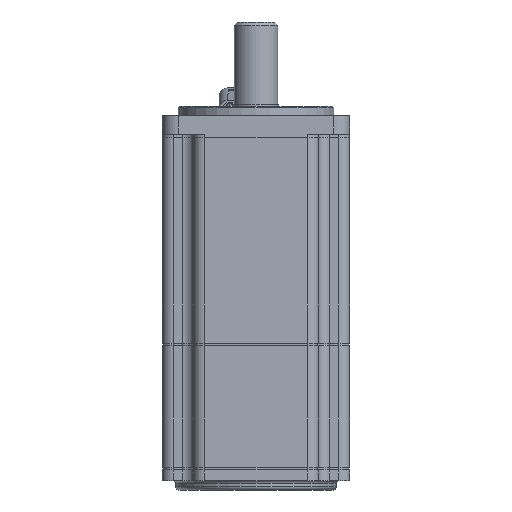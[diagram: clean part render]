
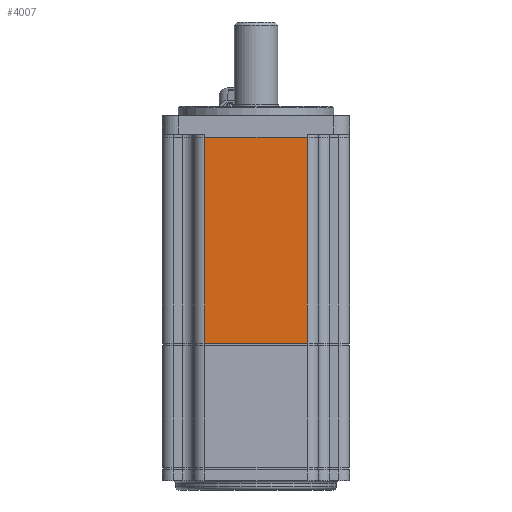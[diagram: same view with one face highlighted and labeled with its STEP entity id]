
A CAD part, front view. The second image highlights one B-rep face of the part: STEP entity #4007.
In plain terms, the highlighted planar face has unit normal (0, -1, 0) as drawn and (-1, 0, 0) by its records, which use the part's own axes.
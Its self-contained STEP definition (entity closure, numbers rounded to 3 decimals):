
#557 = LINE ( 'NONE', #15886, #69135 ) ;
#895 = LINE ( 'NONE', #39237, #40519 ) ;
#905 = LINE ( 'NONE', #39263, #40960 ) ;
#906 = LINE ( 'NONE', #39265, #40907 ) ;
#4007 = ADVANCED_FACE ( 'NONE', ( #68141 ), #39920, .F. ) ;
#4510 = AXIS2_PLACEMENT_3D ( 'NONE', #39919, #39918, #39914 ) ;
#7277 = EDGE_CURVE ( 'NONE', #56352, #56308, #557, .T. ) ;
#13431 = ORIENTED_EDGE ( 'NONE', *, *, #18276, .T. ) ;
#13432 = ORIENTED_EDGE ( 'NONE', *, *, #7277, .F. ) ;
#13433 = ORIENTED_EDGE ( 'NONE', *, *, #18298, .T. ) ;
#13434 = ORIENTED_EDGE ( 'NONE', *, *, #18300, .T. ) ;
#15886 = CARTESIAN_POINT ( 'NONE',  ( -30., 20., 66. ) ) ;
#16287 = DIRECTION ( 'NONE',  ( 0., -1., 0. ) ) ;
#18276 = EDGE_CURVE ( 'NONE', #53099, #53120, #895, .T. ) ;
#18298 = EDGE_CURVE ( 'NONE', #56352, #53099, #905, .T. ) ;
#18300 = EDGE_CURVE ( 'NONE', #53120, #56308, #906, .T. ) ;
#22546 = CARTESIAN_POINT ( 'NONE',  ( -30., 16.5, 0. ) ) ;
#22590 = CARTESIAN_POINT ( 'NONE',  ( -30., -16.5, 0. ) ) ;
#29498 = CARTESIAN_POINT ( 'NONE',  ( -30., -16.5, 66. ) ) ;
#32110 = CARTESIAN_POINT ( 'NONE',  ( -30., 16.5, 66. ) ) ;
#39237 = CARTESIAN_POINT ( 'NONE',  ( -30., 20., 0. ) ) ;
#39238 = DIRECTION ( 'NONE',  ( 0., -1., 0. ) ) ;
#39263 = CARTESIAN_POINT ( 'NONE',  ( -30., 16.5, 66. ) ) ;
#39264 = DIRECTION ( 'NONE',  ( 0., 0., -1. ) ) ;
#39265 = CARTESIAN_POINT ( 'NONE',  ( -30., -16.5, 66. ) ) ;
#39266 = DIRECTION ( 'NONE',  ( 0., 0., 1. ) ) ;
#39914 = DIRECTION ( 'NONE',  ( 0., 0., -1. ) ) ;
#39918 = DIRECTION ( 'NONE',  ( 1., 0., 0. ) ) ;
#39919 = CARTESIAN_POINT ( 'NONE',  ( -30., 20., 66. ) ) ;
#39920 = PLANE ( 'NONE',  #4510 ) ;
#40519 = VECTOR ( 'NONE', #39238, 1000. ) ;
#40907 = VECTOR ( 'NONE', #39266, 1000. ) ;
#40960 = VECTOR ( 'NONE', #39264, 1000. ) ;
#53099 = VERTEX_POINT ( 'NONE', #22546 ) ;
#53120 = VERTEX_POINT ( 'NONE', #22590 ) ;
#56308 = VERTEX_POINT ( 'NONE', #29498 ) ;
#56352 = VERTEX_POINT ( 'NONE', #32110 ) ;
#65393 = EDGE_LOOP ( 'NONE', ( #13432, #13433, #13431, #13434 ) ) ;
#68141 = FACE_OUTER_BOUND ( 'NONE', #65393, .T. ) ;
#69135 = VECTOR ( 'NONE', #16287, 1000. ) ;
